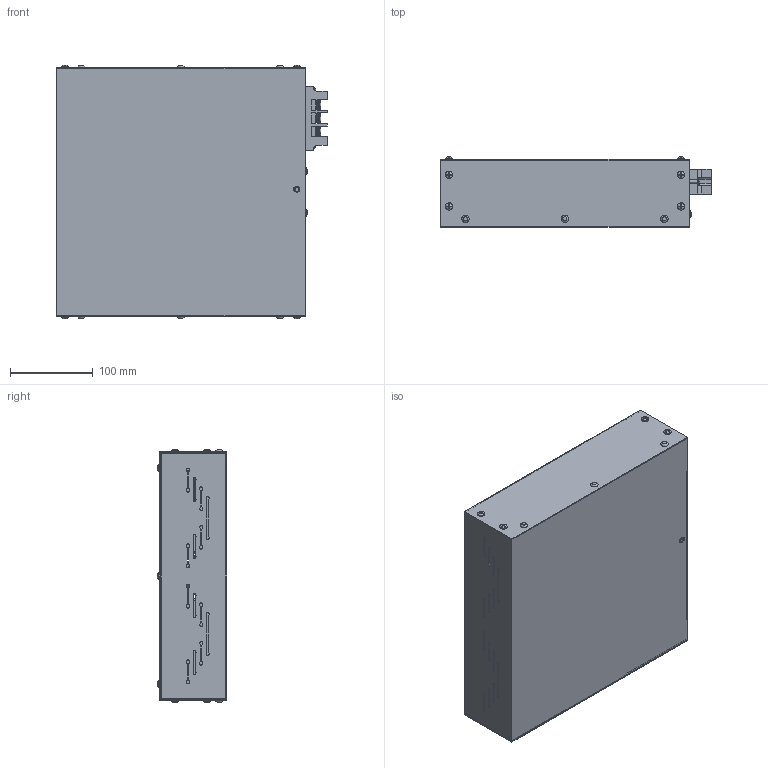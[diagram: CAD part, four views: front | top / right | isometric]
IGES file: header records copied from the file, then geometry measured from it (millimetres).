
Global section: file name: W2L300; native system: Autodesk Inventor 2021; preprocessor: unknown; author: eunsol jang; date: 20240605.160224; units: inch
Bounding box: 326.8 x 84.42 x 306.24 mm (x, y, z)
Volume: 429612.3 mm3; surface area: 609792.8 mm2
Topology: 4 solids, 4 shells, 1481 faces, 4046 edges, 2673 vertices
Faces by surface type: bspline 1481
